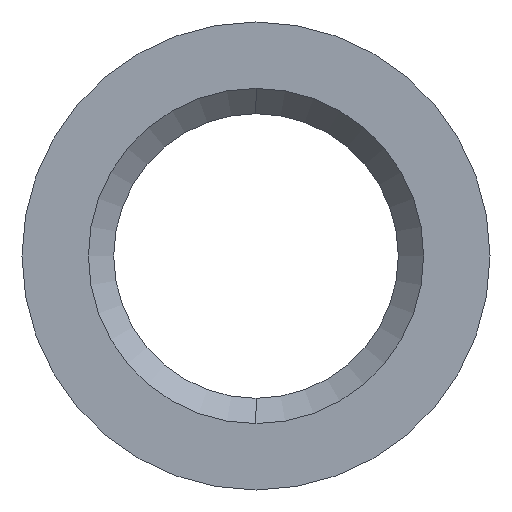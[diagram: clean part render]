
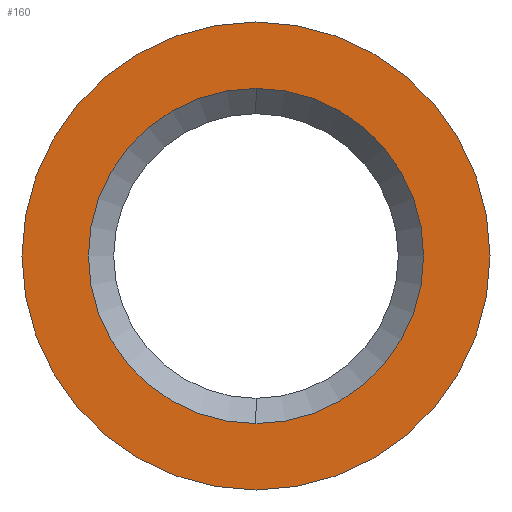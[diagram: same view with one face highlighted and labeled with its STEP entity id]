
A CAD part, left-side view. The second image highlights one B-rep face of the part: STEP entity #160.
In plain terms, the highlighted planar face has unit normal (-1, 0, 0).
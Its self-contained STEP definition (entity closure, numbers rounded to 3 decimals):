
#13 = AXIS2_PLACEMENT_3D ( 'NONE', #318, #805, #180 ) ;
#27 = AXIS2_PLACEMENT_3D ( 'NONE', #552, #196, #133 ) ;
#56 = CIRCLE ( 'NONE', #226, 3.975 ) ;
#79 = VERTEX_POINT ( 'NONE', #279 ) ;
#91 = CARTESIAN_POINT ( 'NONE',  ( -14.05, 0., 3.975 ) ) ;
#130 = CARTESIAN_POINT ( 'NONE',  ( -14.05, 0., 5.55 ) ) ;
#133 = DIRECTION ( 'NONE',  ( 0., 0., 1. ) ) ;
#143 = VERTEX_POINT ( 'NONE', #831 ) ;
#145 = DIRECTION ( 'NONE',  ( 0., 0., -1. ) ) ;
#160 = ADVANCED_FACE ( 'NONE', ( #486, #275 ), #267, .T. ) ;
#173 = VERTEX_POINT ( 'NONE', #130 ) ;
#180 = DIRECTION ( 'NONE',  ( 0., 0., 1. ) ) ;
#196 = DIRECTION ( 'NONE',  ( -1., 0., 0. ) ) ;
#212 = DIRECTION ( 'NONE',  ( 0., 0., -1. ) ) ;
#226 = AXIS2_PLACEMENT_3D ( 'NONE', #461, #745, #517 ) ;
#235 = ORIENTED_EDGE ( 'NONE', *, *, #411, .T. ) ;
#267 = PLANE ( 'NONE',  #27 ) ;
#271 = EDGE_LOOP ( 'NONE', ( #235, #851 ) ) ;
#275 = FACE_OUTER_BOUND ( 'NONE', #868, .T. ) ;
#279 = CARTESIAN_POINT ( 'NONE',  ( -14.05, 0., -3.975 ) ) ;
#285 = AXIS2_PLACEMENT_3D ( 'NONE', #838, #782, #212 ) ;
#318 = CARTESIAN_POINT ( 'NONE',  ( -14.05, 0., 0. ) ) ;
#320 = ORIENTED_EDGE ( 'NONE', *, *, #347, .F. ) ;
#347 = EDGE_CURVE ( 'NONE', #143, #173, #465, .T. ) ;
#411 = EDGE_CURVE ( 'NONE', #768, #79, #666, .T. ) ;
#451 = AXIS2_PLACEMENT_3D ( 'NONE', #840, #770, #145 ) ;
#461 = CARTESIAN_POINT ( 'NONE',  ( -14.05, 0., 0. ) ) ;
#465 = CIRCLE ( 'NONE', #451, 5.55 ) ;
#467 = CIRCLE ( 'NONE', #285, 5.55 ) ;
#474 = EDGE_CURVE ( 'NONE', #79, #768, #56, .T. ) ;
#486 = FACE_BOUND ( 'NONE', #271, .T. ) ;
#517 = DIRECTION ( 'NONE',  ( 0., 0., 1. ) ) ;
#552 = CARTESIAN_POINT ( 'NONE',  ( -14.05, 5.55, 0. ) ) ;
#637 = ORIENTED_EDGE ( 'NONE', *, *, #760, .F. ) ;
#666 = CIRCLE ( 'NONE', #13, 3.975 ) ;
#745 = DIRECTION ( 'NONE',  ( 1., 0., 0. ) ) ;
#760 = EDGE_CURVE ( 'NONE', #173, #143, #467, .T. ) ;
#768 = VERTEX_POINT ( 'NONE', #91 ) ;
#770 = DIRECTION ( 'NONE',  ( 1., 0., 0. ) ) ;
#782 = DIRECTION ( 'NONE',  ( 1., 0., 0. ) ) ;
#805 = DIRECTION ( 'NONE',  ( 1., 0., 0. ) ) ;
#831 = CARTESIAN_POINT ( 'NONE',  ( -14.05, 0., -5.55 ) ) ;
#838 = CARTESIAN_POINT ( 'NONE',  ( -14.05, 0., 0. ) ) ;
#840 = CARTESIAN_POINT ( 'NONE',  ( -14.05, 0., 0. ) ) ;
#851 = ORIENTED_EDGE ( 'NONE', *, *, #474, .T. ) ;
#868 = EDGE_LOOP ( 'NONE', ( #320, #637 ) ) ;
